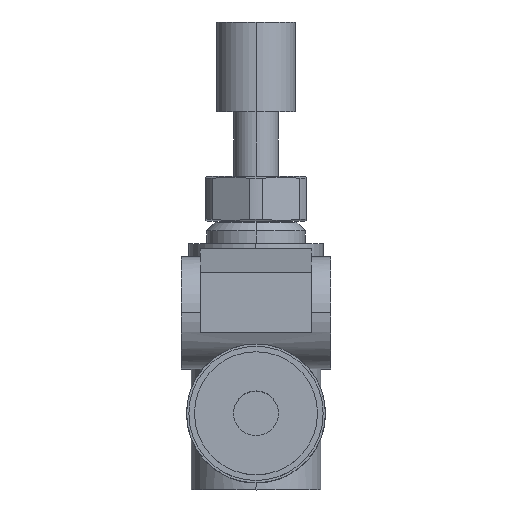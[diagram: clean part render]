
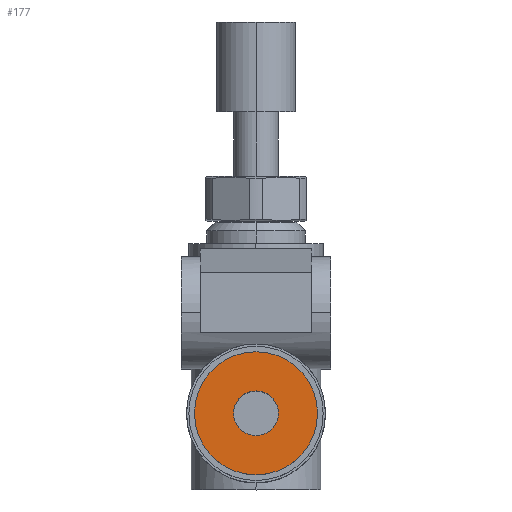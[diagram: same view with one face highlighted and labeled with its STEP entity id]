
A CAD part, top view. The second image highlights one B-rep face of the part: STEP entity #177.
In plain terms, the highlighted planar face has unit normal (0, 0, 1).
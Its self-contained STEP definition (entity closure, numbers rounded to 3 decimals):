
#177 = ADVANCED_FACE( '', ( #407, #408 ), #409, .T. );
#407 = FACE_BOUND( '', #640, .T. );
#408 = FACE_OUTER_BOUND( '', #641, .T. );
#409 = PLANE( '', #642 );
#640 = EDGE_LOOP( '', ( #1431, #1432 ) );
#641 = EDGE_LOOP( '', ( #1433, #1434 ) );
#642 = AXIS2_PLACEMENT_3D( '', #1435, #1436, #1437 );
#1431 = ORIENTED_EDGE( '', *, *, #1692, .F. );
#1432 = ORIENTED_EDGE( '', *, *, #1453, .F. );
#1433 = ORIENTED_EDGE( '', *, *, #1457, .T. );
#1434 = ORIENTED_EDGE( '', *, *, #1691, .T. );
#1435 = CARTESIAN_POINT( '', ( 0., 1.875, 12.7 ) );
#1436 = DIRECTION( '', ( 0., 0., 1. ) );
#1437 = DIRECTION( '', ( 0., 1., 0. ) );
#1453 = EDGE_CURVE( '', #1699, #1695, #1701, .T. );
#1457 = EDGE_CURVE( '', #1703, #1707, #1709, .T. );
#1691 = EDGE_CURVE( '', #1707, #1703, #2095, .T. );
#1692 = EDGE_CURVE( '', #1695, #1699, #2096, .T. );
#1695 = VERTEX_POINT( '', #2099 );
#1699 = VERTEX_POINT( '', #2104 );
#1701 = CIRCLE( '', #2107, 1. );
#1703 = VERTEX_POINT( '', #2109 );
#1707 = VERTEX_POINT( '', #2114 );
#1709 = CIRCLE( '', #2117, 2.75 );
#2095 = CIRCLE( '', #3013, 2.75 );
#2096 = CIRCLE( '', #3014, 1. );
#2099 = CARTESIAN_POINT( '', ( 0., 1., 12.7 ) );
#2104 = CARTESIAN_POINT( '', ( 0., -1., 12.7 ) );
#2107 = AXIS2_PLACEMENT_3D( '', #3021, #3022, #3023 );
#2109 = CARTESIAN_POINT( '', ( 0., 2.75, 12.7 ) );
#2114 = CARTESIAN_POINT( '', ( 0., -2.75, 12.7 ) );
#2117 = AXIS2_PLACEMENT_3D( '', #3029, #3030, #3031 );
#3013 = AXIS2_PLACEMENT_3D( '', #3455, #3456, #3457 );
#3014 = AXIS2_PLACEMENT_3D( '', #3458, #3459, #3460 );
#3021 = CARTESIAN_POINT( '', ( 0., 0., 12.7 ) );
#3022 = DIRECTION( '', ( 0., 0., 1. ) );
#3023 = DIRECTION( '', ( 0., 1., 0. ) );
#3029 = CARTESIAN_POINT( '', ( 0., 0., 12.7 ) );
#3030 = DIRECTION( '', ( 0., 0., 1. ) );
#3031 = DIRECTION( '', ( 0., 1., 0. ) );
#3455 = CARTESIAN_POINT( '', ( 0., 0., 12.7 ) );
#3456 = DIRECTION( '', ( 0., 0., 1. ) );
#3457 = DIRECTION( '', ( 0., 1., 0. ) );
#3458 = CARTESIAN_POINT( '', ( 0., 0., 12.7 ) );
#3459 = DIRECTION( '', ( 0., 0., 1. ) );
#3460 = DIRECTION( '', ( 0., 1., 0. ) );
